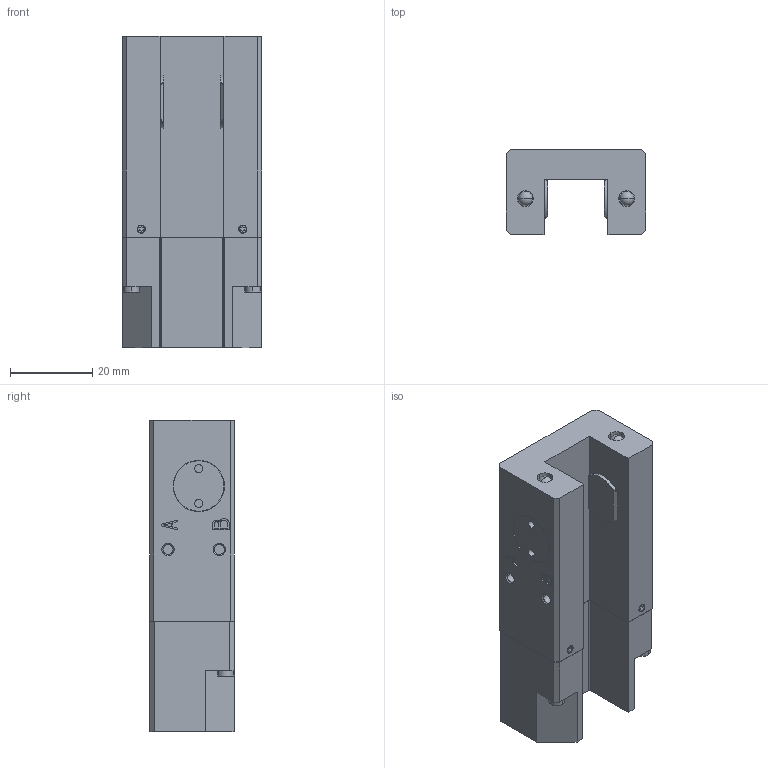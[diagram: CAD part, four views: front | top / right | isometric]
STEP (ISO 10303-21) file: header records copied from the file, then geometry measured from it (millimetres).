
FILE_DESCRIPTION( ( '' ), '1' );
FILE_NAME( 'E:/04 嬴檜蠱滌/0404 ZIMMER/040414 ZIMMER CAD download/LKPS/LKPS1502BS2---.stp', '2020-04-16T09:46:58', ( '' ), ( '' ), ' ', ' ', ' ' );
FILE_SCHEMA( ( 'automotive_design' ) );
Length unit declared in the file: millimetre
Products named in the file (1): 1
Bounding box: 34 x 20.7 x 75.9 mm (x, y, z)
Volume: 36069.9 mm3; surface area: 12321.7 mm2
Topology: 1 solids, 1 shells, 307 faces, 734 edges, 482 vertices
Faces by surface type: plane 195, cylinder 84, cone 20, sphere 4, torus 4
Entity records: 17412 total; most frequent: DIRECTION 1566, STYLED_ITEM 1520, PRESENTATION_STYLE_ASSIGNMENT 1520, CARTESIAN_POINT 1520, COLOUR_RGB 1520, ORIENTED_EDGE 1460, EDGE_CURVE 730, CURVE_STYLE 730
